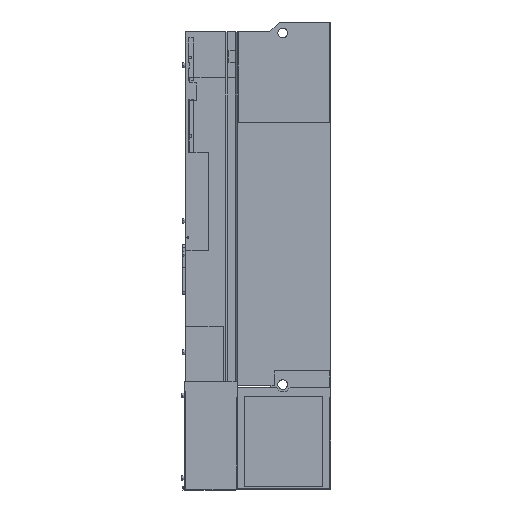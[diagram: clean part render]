
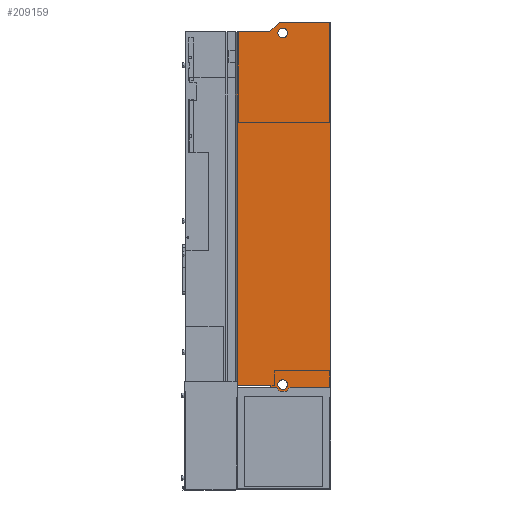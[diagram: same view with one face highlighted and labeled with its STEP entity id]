
A CAD part, left-side view. The second image highlights one B-rep face of the part: STEP entity #209159.
In plain terms, the highlighted planar face has unit normal (-1, 0, 0).
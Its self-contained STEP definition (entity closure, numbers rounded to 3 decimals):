
#189177=DIRECTION('',(0.,0.,1.));
#189178=VECTOR('',#189177,950.);
#189179=CARTESIAN_POINT('',(0.,0.,0.));
#189180=LINE('',#189179,#189178);
#189279=DIRECTION('',(0.,-1.,0.));
#189280=VECTOR('',#189279,130.);
#189281=CARTESIAN_POINT('',(0.,130.,0.));
#189282=LINE('',#189281,#189280);
#189303=DIRECTION('',(0.,-1.,0.));
#189304=VECTOR('',#189303,82.25);
#189305=CARTESIAN_POINT('',(0.,237.25,25.));
#189306=LINE('',#189305,#189304);
#194268=DIRECTION('',(0.,1.,0.));
#194269=VECTOR('',#194268,82.25);
#194270=CARTESIAN_POINT('',(0.,155.,925.));
#194271=LINE('',#194270,#194269);
#194392=DIRECTION('',(0.,1.,0.));
#194393=VECTOR('',#194392,130.);
#194394=CARTESIAN_POINT('',(0.,0.,950.));
#194395=LINE('',#194394,#194393);
#194456=DIRECTION('',(0.,0.707,0.707));
#194457=VECTOR('',#194456,35.355);
#194458=CARTESIAN_POINT('',(0.,130.,0.));
#194459=LINE('',#194458,#194457);
#194460=DIRECTION('',(0.,-0.707,0.707));
#194461=VECTOR('',#194460,35.355);
#194462=CARTESIAN_POINT('',(0.,155.,925.));
#194463=LINE('',#194462,#194461);
#194464=CARTESIAN_POINT('',(0.,122.,922.));
#194465=DIRECTION('',(-1.,0.,0.));
#194466=DIRECTION('',(0.,0.,1.));
#194467=AXIS2_PLACEMENT_3D('',#194464,#194465,#194466);
#194469=CARTESIAN_POINT('',(0.,122.,922.));
#194470=DIRECTION('',(-1.,0.,0.));
#194471=DIRECTION('',(0.,0.,-1.));
#194472=AXIS2_PLACEMENT_3D('',#194469,#194470,#194471);
#194474=CARTESIAN_POINT('',(0.,122.,28.));
#194475=DIRECTION('',(-1.,0.,0.));
#194476=DIRECTION('',(0.,0.,1.));
#194477=AXIS2_PLACEMENT_3D('',#194474,#194475,#194476);
#194479=CARTESIAN_POINT('',(0.,122.,28.));
#194480=DIRECTION('',(-1.,0.,0.));
#194481=DIRECTION('',(0.,0.,-1.));
#194482=AXIS2_PLACEMENT_3D('',#194479,#194480,#194481);
#194696=DIRECTION('',(0.,0.,-1.));
#194697=VECTOR('',#194696,900.);
#194698=CARTESIAN_POINT('',(0.,237.25,925.));
#194699=LINE('',#194698,#194697);
#199331=CARTESIAN_POINT('',(0.,0.,0.));
#199332=VERTEX_POINT('',#199331);
#199333=CARTESIAN_POINT('',(0.,0.,950.));
#199334=VERTEX_POINT('',#199333);
#199407=CARTESIAN_POINT('',(0.,130.,0.));
#199408=VERTEX_POINT('',#199407);
#199421=CARTESIAN_POINT('',(0.,237.25,25.));
#199422=VERTEX_POINT('',#199421);
#199423=CARTESIAN_POINT('',(0.,155.,25.));
#199424=VERTEX_POINT('',#199423);
#200898=CARTESIAN_POINT('',(0.,155.,925.));
#200899=VERTEX_POINT('',#200898);
#200900=CARTESIAN_POINT('',(0.,237.25,925.));
#200901=VERTEX_POINT('',#200900);
#200936=CARTESIAN_POINT('',(0.,130.,950.));
#200937=VERTEX_POINT('',#200936);
#200938=CARTESIAN_POINT('',(0.,122.,934.));
#200939=CARTESIAN_POINT('',(0.,122.,910.));
#200940=VERTEX_POINT('',#200938);
#200941=VERTEX_POINT('',#200939);
#200942=CARTESIAN_POINT('',(0.,122.,40.));
#200943=CARTESIAN_POINT('',(0.,122.,16.));
#200944=VERTEX_POINT('',#200942);
#200945=VERTEX_POINT('',#200943);
#209129=CARTESIAN_POINT('',(0.,118.625,475.));
#209130=DIRECTION('',(1.,0.,0.));
#209131=DIRECTION('',(0.,-1.,0.));
#209132=AXIS2_PLACEMENT_3D('',#209129,#209130,#209131);
#209133=PLANE('',#209132);
#209134=ORIENTED_EDGE('',*,*,#202471,.F.);
#209136=ORIENTED_EDGE('',*,*,#209135,.T.);
#209137=ORIENTED_EDGE('',*,*,#202507,.F.);
#209139=ORIENTED_EDGE('',*,*,#209138,.F.);
#209140=ORIENTED_EDGE('',*,*,#208934,.F.);
#209142=ORIENTED_EDGE('',*,*,#209141,.T.);
#209143=ORIENTED_EDGE('',*,*,#209056,.F.);
#209144=ORIENTED_EDGE('',*,*,#202361,.F.);
#209145=EDGE_LOOP('',(#209134,#209136,#209137,#209139,#209140,#209142,#209143,
#209144));
#209146=FACE_OUTER_BOUND('',#209145,.F.);
#209148=ORIENTED_EDGE('',*,*,#209147,.T.);
#209150=ORIENTED_EDGE('',*,*,#209149,.T.);
#209151=EDGE_LOOP('',(#209148,#209150));
#209152=FACE_BOUND('',#209151,.F.);
#209154=ORIENTED_EDGE('',*,*,#209153,.T.);
#209156=ORIENTED_EDGE('',*,*,#209155,.T.);
#209157=EDGE_LOOP('',(#209154,#209156));
#209158=FACE_BOUND('',#209157,.F.);
#194468=CIRCLE('',#194467,12.);
#194473=CIRCLE('',#194472,12.);
#194478=CIRCLE('',#194477,12.);
#194483=CIRCLE('',#194482,12.);
#202361=EDGE_CURVE('',#199332,#199334,#189180,.T.);
#202471=EDGE_CURVE('',#199408,#199332,#189282,.T.);
#202507=EDGE_CURVE('',#199422,#199424,#189306,.T.);
#208934=EDGE_CURVE('',#200899,#200901,#194271,.T.);
#209056=EDGE_CURVE('',#199334,#200937,#194395,.T.);
#209135=EDGE_CURVE('',#199408,#199424,#194459,.T.);
#209138=EDGE_CURVE('',#200901,#199422,#194699,.T.);
#209141=EDGE_CURVE('',#200899,#200937,#194463,.T.);
#209147=EDGE_CURVE('',#200940,#200941,#194468,.T.);
#209149=EDGE_CURVE('',#200941,#200940,#194473,.T.);
#209153=EDGE_CURVE('',#200944,#200945,#194478,.T.);
#209155=EDGE_CURVE('',#200945,#200944,#194483,.T.);
#209159=ADVANCED_FACE('',(#209146,#209152,#209158),#209133,.F.);
